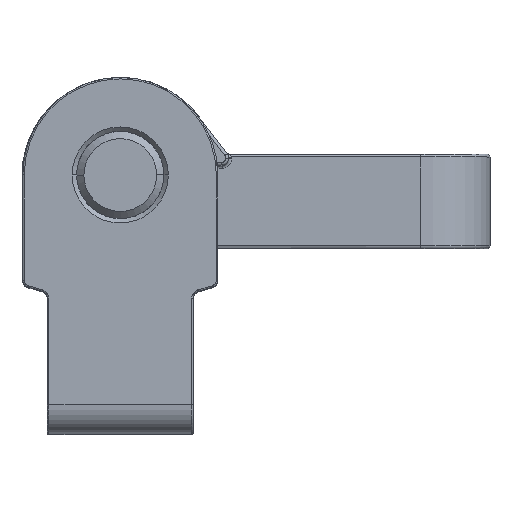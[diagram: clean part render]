
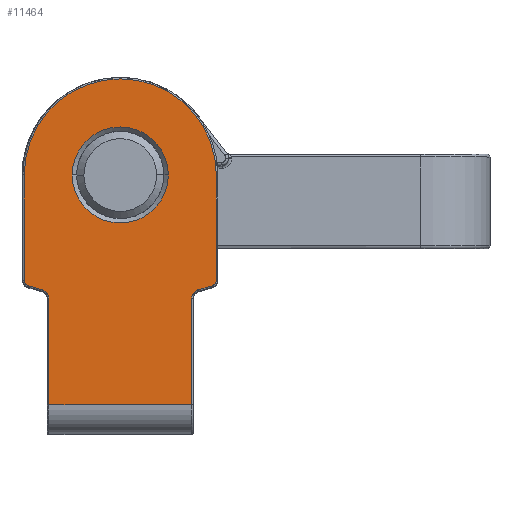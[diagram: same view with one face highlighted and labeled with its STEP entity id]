
A CAD part, top view. The second image highlights one B-rep face of the part: STEP entity #11464.
In plain terms, the highlighted planar face has unit normal (0, 0, 1).
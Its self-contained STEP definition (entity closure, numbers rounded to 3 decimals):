
#152 = CARTESIAN_POINT ( 'NONE',  ( 0., -15.8, -12.7 ) ) ;
#265 = LINE ( 'NONE', #17815, #3818 ) ;
#272 = CARTESIAN_POINT ( 'NONE',  ( 5.5, -8.474, -12.7 ) ) ;
#521 = LINE ( 'NONE', #15973, #8527 ) ;
#669 = ORIENTED_EDGE ( 'NONE', *, *, #18239, .T. ) ;
#721 = VERTEX_POINT ( 'NONE', #13333 ) ;
#854 = DIRECTION ( 'NONE',  ( 0., 0., -1. ) ) ;
#977 = DIRECTION ( 'NONE',  ( -1., 0., 0. ) ) ;
#1072 = AXIS2_PLACEMENT_3D ( 'NONE', #19410, #10400, #1375 ) ;
#1084 = CARTESIAN_POINT ( 'NONE',  ( 0., 0., -12.7 ) ) ;
#1375 = DIRECTION ( 'NONE',  ( -1., 0., 0. ) ) ;
#1387 = DIRECTION ( 'NONE',  ( 0., 0., -1. ) ) ;
#1479 = CARTESIAN_POINT ( 'NONE',  ( -4.9, -15.8, -12.7 ) ) ;
#1637 = CARTESIAN_POINT ( 'NONE',  ( -25.824, 11.2, -12.7 ) ) ;
#1688 = VECTOR ( 'NONE', #10715, 1000. ) ;
#1787 = DIRECTION ( 'NONE',  ( -1., 0., 0. ) ) ;
#1816 = ORIENTED_EDGE ( 'NONE', *, *, #8835, .T. ) ;
#2416 = LINE ( 'NONE', #8785, #13471 ) ;
#2460 = CIRCLE ( 'NONE', #8647, 0.4 ) ;
#2486 = DIRECTION ( 'NONE',  ( 0., 1., 0. ) ) ;
#2590 = DIRECTION ( 'NONE',  ( -1., 0., 0. ) ) ;
#2632 = VERTEX_POINT ( 'NONE', #15393 ) ;
#2886 = EDGE_CURVE ( 'NONE', #13637, #6852, #15617, .T. ) ;
#2888 = CIRCLE ( 'NONE', #19262, 6.6 ) ;
#2942 = CARTESIAN_POINT ( 'NONE',  ( 6.313, -7.61, -12.7 ) ) ;
#3201 = CARTESIAN_POINT ( 'NONE',  ( 6.2, -7.226, -12.7 ) ) ;
#3345 = LINE ( 'NONE', #14962, #18890 ) ;
#3730 = FACE_OUTER_BOUND ( 'NONE', #6913, .T. ) ;
#3797 = DIRECTION ( 'NONE',  ( 0., -1., 0. ) ) ;
#3818 = VECTOR ( 'NONE', #8800, 1000. ) ;
#4396 = CARTESIAN_POINT ( 'NONE',  ( 6.6, -7.226, -12.7 ) ) ;
#4674 = DIRECTION ( 'NONE',  ( -1., 0., 0. ) ) ;
#4702 = DIRECTION ( 'NONE',  ( -1., 0., 0. ) ) ;
#5192 = ORIENTED_EDGE ( 'NONE', *, *, #5352, .T. ) ;
#5253 = LINE ( 'NONE', #152, #1688 ) ;
#5352 = EDGE_CURVE ( 'NONE', #17482, #15896, #12139, .T. ) ;
#5380 = VERTEX_POINT ( 'NONE', #4396 ) ;
#5398 = CARTESIAN_POINT ( 'NONE',  ( -6.6, 0., -12.7 ) ) ;
#5454 = DIRECTION ( 'NONE',  ( 0., -1., 0. ) ) ;
#5459 = EDGE_LOOP ( 'NONE', ( #5192, #14428 ) ) ;
#5520 = VERTEX_POINT ( 'NONE', #5398 ) ;
#5633 = CIRCLE ( 'NONE', #16326, 0.6 ) ;
#5739 = AXIS2_PLACEMENT_3D ( 'NONE', #10421, #1387, #11930 ) ;
#6133 = PLANE ( 'NONE',  #17437 ) ;
#6318 = EDGE_CURVE ( 'NONE', #17742, #7659, #2460, .T. ) ;
#6787 = FACE_BOUND ( 'NONE', #5459, .T. ) ;
#6852 = VERTEX_POINT ( 'NONE', #2942 ) ;
#6913 = EDGE_LOOP ( 'NONE', ( #10487, #19130, #18014, #7301, #669, #7136, #16301, #18742, #16240, #1816, #10322, #18233 ) ) ;
#6933 = CARTESIAN_POINT ( 'NONE',  ( 5.331, -7.898, -12.7 ) ) ;
#7134 = VECTOR ( 'NONE', #18051, 1000. ) ;
#7136 = ORIENTED_EDGE ( 'NONE', *, *, #8881, .T. ) ;
#7289 = EDGE_CURVE ( 'NONE', #11127, #5520, #2888, .T. ) ;
#7301 = ORIENTED_EDGE ( 'NONE', *, *, #2886, .T. ) ;
#7376 = EDGE_CURVE ( 'NONE', #5520, #17742, #2416, .T. ) ;
#7430 = EDGE_CURVE ( 'NONE', #2632, #14303, #521, .T. ) ;
#7532 = CIRCLE ( 'NONE', #5739, 3.3 ) ;
#7659 = VERTEX_POINT ( 'NONE', #12081 ) ;
#7743 = CARTESIAN_POINT ( 'NONE',  ( -6.6, -7.226, -12.7 ) ) ;
#8243 = CARTESIAN_POINT ( 'NONE',  ( 6.6, 0., -12.7 ) ) ;
#8502 = VERTEX_POINT ( 'NONE', #9452 ) ;
#8527 = VECTOR ( 'NONE', #5454, 1000. ) ;
#8647 = AXIS2_PLACEMENT_3D ( 'NONE', #19013, #10011, #977 ) ;
#8758 = EDGE_CURVE ( 'NONE', #14741, #721, #17225, .T. ) ;
#8785 = CARTESIAN_POINT ( 'NONE',  ( -6.6, 11.2, -12.7 ) ) ;
#8800 = DIRECTION ( 'NONE',  ( 0.959, -0.282, 0. ) ) ;
#8835 = EDGE_CURVE ( 'NONE', #7659, #8502, #265, .T. ) ;
#8881 = EDGE_CURVE ( 'NONE', #5380, #11127, #3345, .T. ) ;
#8982 = CARTESIAN_POINT ( 'NONE',  ( 3.3, 0., -12.7 ) ) ;
#9165 = CIRCLE ( 'NONE', #10543, 0.4 ) ;
#9452 = CARTESIAN_POINT ( 'NONE',  ( -5.331, -7.898, -12.7 ) ) ;
#9527 = CARTESIAN_POINT ( 'NONE',  ( 4.9, -15.8, -12.7 ) ) ;
#9883 = CARTESIAN_POINT ( 'NONE',  ( -5.5, -8.474, -12.7 ) ) ;
#10008 = CARTESIAN_POINT ( 'NONE',  ( 4.9, 11.2, -12.7 ) ) ;
#10011 = DIRECTION ( 'NONE',  ( 0., 0., 1. ) ) ;
#10322 = ORIENTED_EDGE ( 'NONE', *, *, #17928, .T. ) ;
#10400 = DIRECTION ( 'NONE',  ( 0., 0., -1. ) ) ;
#10421 = CARTESIAN_POINT ( 'NONE',  ( 0., 0., -12.7 ) ) ;
#10487 = ORIENTED_EDGE ( 'NONE', *, *, #15914, .F. ) ;
#10543 = AXIS2_PLACEMENT_3D ( 'NONE', #3201, #13721, #4702 ) ;
#10589 = EDGE_CURVE ( 'NONE', #721, #13637, #12461, .T. ) ;
#10715 = DIRECTION ( 'NONE',  ( -1., 0., 0. ) ) ;
#10820 = DIRECTION ( 'NONE',  ( 0., 0., -1. ) ) ;
#11127 = VERTEX_POINT ( 'NONE', #8243 ) ;
#11407 = DIRECTION ( 'NONE',  ( -1., 0., 0. ) ) ;
#11464 = ADVANCED_FACE ( 'NONE', ( #6787, #3730 ), #6133, .F. ) ;
#11630 = DIRECTION ( 'NONE',  ( 0., 0., 1. ) ) ;
#11930 = DIRECTION ( 'NONE',  ( -1., 0., 0. ) ) ;
#11954 = DIRECTION ( 'NONE',  ( 0., 1., 0. ) ) ;
#12081 = CARTESIAN_POINT ( 'NONE',  ( -6.313, -7.61, -12.7 ) ) ;
#12139 = CIRCLE ( 'NONE', #1072, 3.3 ) ;
#12461 = CIRCLE ( 'NONE', #16883, 0.6 ) ;
#13333 = CARTESIAN_POINT ( 'NONE',  ( 4.9, -8.474, -12.7 ) ) ;
#13471 = VECTOR ( 'NONE', #3797, 1000. ) ;
#13637 = VERTEX_POINT ( 'NONE', #6933 ) ;
#13687 = DIRECTION ( 'NONE',  ( 0., 0., -1. ) ) ;
#13721 = DIRECTION ( 'NONE',  ( 0., 0., 1. ) ) ;
#14303 = VERTEX_POINT ( 'NONE', #1479 ) ;
#14428 = ORIENTED_EDGE ( 'NONE', *, *, #16833, .T. ) ;
#14741 = VERTEX_POINT ( 'NONE', #9527 ) ;
#14962 = CARTESIAN_POINT ( 'NONE',  ( 6.6, 11.2, -12.7 ) ) ;
#15014 = CARTESIAN_POINT ( 'NONE',  ( -18.174, -14.812, -12.7 ) ) ;
#15393 = CARTESIAN_POINT ( 'NONE',  ( -4.9, -8.474, -12.7 ) ) ;
#15617 = LINE ( 'NONE', #15014, #7134 ) ;
#15896 = VERTEX_POINT ( 'NONE', #8982 ) ;
#15914 = EDGE_CURVE ( 'NONE', #14741, #14303, #5253, .T. ) ;
#15973 = CARTESIAN_POINT ( 'NONE',  ( -4.9, 11.2, -12.7 ) ) ;
#16132 = CARTESIAN_POINT ( 'NONE',  ( -3.3, 0., -12.7 ) ) ;
#16240 = ORIENTED_EDGE ( 'NONE', *, *, #6318, .T. ) ;
#16301 = ORIENTED_EDGE ( 'NONE', *, *, #7289, .T. ) ;
#16326 = AXIS2_PLACEMENT_3D ( 'NONE', #9883, #854, #11407 ) ;
#16735 = VECTOR ( 'NONE', #2486, 1000. ) ;
#16833 = EDGE_CURVE ( 'NONE', #15896, #17482, #7532, .T. ) ;
#16883 = AXIS2_PLACEMENT_3D ( 'NONE', #272, #10820, #1787 ) ;
#17225 = LINE ( 'NONE', #10008, #16735 ) ;
#17437 = AXIS2_PLACEMENT_3D ( 'NONE', #1637, #13687, #4674 ) ;
#17482 = VERTEX_POINT ( 'NONE', #16132 ) ;
#17742 = VERTEX_POINT ( 'NONE', #7743 ) ;
#17815 = CARTESIAN_POINT ( 'NONE',  ( -29.363, -0.83, -12.7 ) ) ;
#17928 = EDGE_CURVE ( 'NONE', #8502, #2632, #5633, .T. ) ;
#18014 = ORIENTED_EDGE ( 'NONE', *, *, #10589, .T. ) ;
#18051 = DIRECTION ( 'NONE',  ( 0.959, 0.282, 0. ) ) ;
#18233 = ORIENTED_EDGE ( 'NONE', *, *, #7430, .T. ) ;
#18239 = EDGE_CURVE ( 'NONE', #6852, #5380, #9165, .T. ) ;
#18742 = ORIENTED_EDGE ( 'NONE', *, *, #7376, .T. ) ;
#18890 = VECTOR ( 'NONE', #11954, 1000. ) ;
#19013 = CARTESIAN_POINT ( 'NONE',  ( -6.2, -7.226, -12.7 ) ) ;
#19130 = ORIENTED_EDGE ( 'NONE', *, *, #8758, .T. ) ;
#19262 = AXIS2_PLACEMENT_3D ( 'NONE', #1084, #11630, #2590 ) ;
#19410 = CARTESIAN_POINT ( 'NONE',  ( 0., 0., -12.7 ) ) ;
